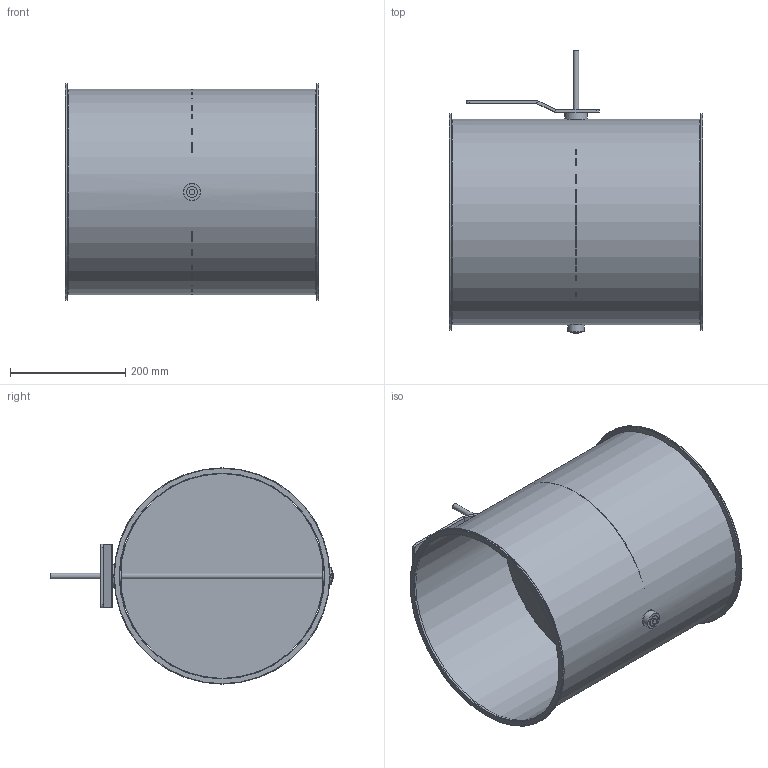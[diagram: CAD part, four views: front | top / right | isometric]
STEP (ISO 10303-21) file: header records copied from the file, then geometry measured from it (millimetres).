
FILE_DESCRIPTION(/* description */ (''),/* implementation_level */ '2;1');
FILE_NAME(/* name */ 'EA107-80B__355_L440_Belimo_Typen_NF_SF.stp',/* time_stamp */ '2017-12-06T15:23:48+01:00',/* author */ (''),/* organization */ (''),/* preprocessor_version */ 'ST-DEVELOPER v11',/* originating_system */ 'SIEMENS UGS NX 6.0',/* authorisation */ '');
FILE_SCHEMA (('CONFIG_CONTROL_DESIGN'));
Length unit declared in the file: millimetre
Products named in the file (1): gars18E2j2en
Bounding box: 440 x 491 x 375 mm (x, y, z)
Volume: 778965.6 mm3; surface area: 1302193 mm2
Topology: 8 solids, 8 shells, 76 faces, 158 edges, 100 vertices
Faces by surface type: plane 36, cylinder 32, torus 6, cone 2
Full cylindrical faces by diameter (mm): 4.1 x4, 10 x3, 19 x3, 19.85 x2, 20 x2, 29 x1, 30 x2, 39 x1, 355 x1, 356.6 x1, 375 x2
Entity records: 1960 total; most frequent: CARTESIAN_POINT 353, DIRECTION 334, ORIENTED_EDGE 236, AXIS2_PLACEMENT_3D 143, EDGE_LOOP 132, EDGE_CURVE 118, FACE_BOUND 102, VERTEX_POINT 90
